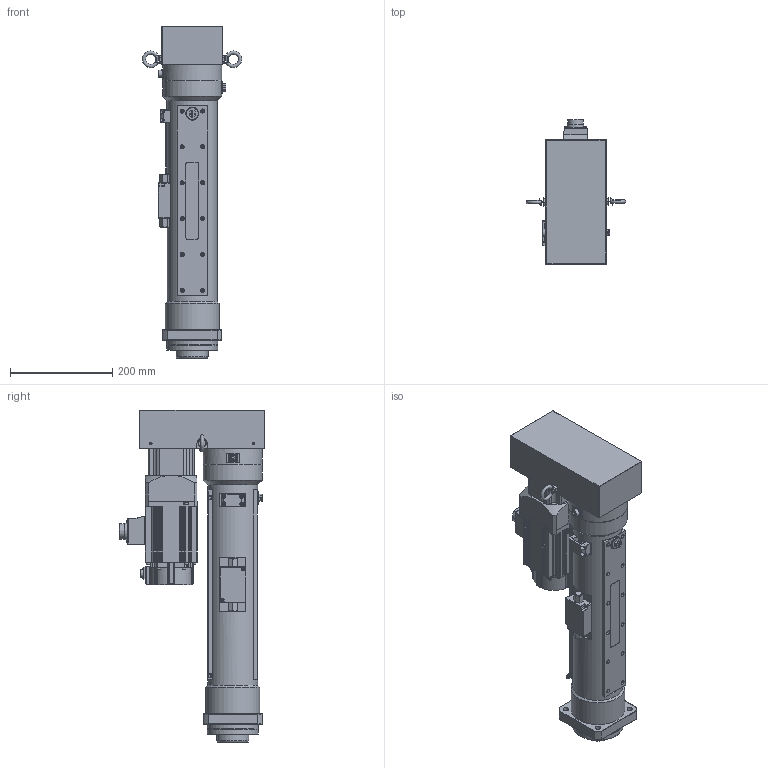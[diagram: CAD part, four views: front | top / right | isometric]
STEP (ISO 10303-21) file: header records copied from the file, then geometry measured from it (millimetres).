
FILE_DESCRIPTION(/* description */ (''),/* implementation_level */ '2;1');
FILE_NAME(/* name */ 'Z:\07.Product\01.Design\3D\1.P-All\OAICS-P\0000.Assembly\OACIS-P010,P015-300-200-A6V200.stp',/* time_stamp */ '2023-03-03T10:56:03+09:00',/* author */ ('magic'),/* organization */ (''),/* preprocessor_version */ 'ST-DEVELOPER v17',/* originating_system */ 'Autodesk Inventor 2019',/* authorisation */ '');
FILE_SCHEMA (('AUTOMOTIVE_DESIGN { 1 0 10303 214 3 1 1 }'));
Products named in the file (1): OACIS-P030-300-200-A6
Bounding box: 193.9 x 283.44 x 648 mm (x, y, z)
Volume: 6500234.3 mm3; surface area: 929950.7 mm2
Topology: 3 solids, 3 shells, 2245 faces, 5981 edges, 3943 vertices
Faces by surface type: plane 1009, cylinder 768, cone 246, bspline 108, sphere 60, torus 54
Full cylindrical faces by diameter (mm): 1 x6, 3.242 x40, 4.134 x4, 4.5 x36, 4.917 x19, 5 x2, 5.8 x2, 6.5 x2, 6.6 x10, 6.647 x8, 6.75 x4, 6.8 x1, 7 x12, 7.2 x2, 7.24 x2, 7.8 x2, 8 x48, 8.376 x8, 8.4 x1, 8.7 x1, 9 x12, 9.188 x1, 11 x4, 14 x9, 14.8 x1, 16.376 x1, 18 x1, 22 x1, 25 x1, 25.4 x2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
Entity records: 83240 total; most frequent: CARTESIAN_POINT 24165, DIRECTION 12076, ORIENTED_EDGE 11726, EDGE_CURVE 5863, AXIS2_PLACEMENT_3D 4546, VERTEX_POINT 3943, LINE 2984, VECTOR 2984
